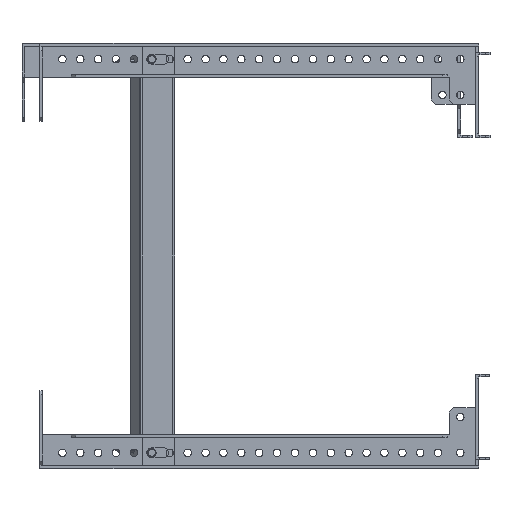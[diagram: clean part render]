
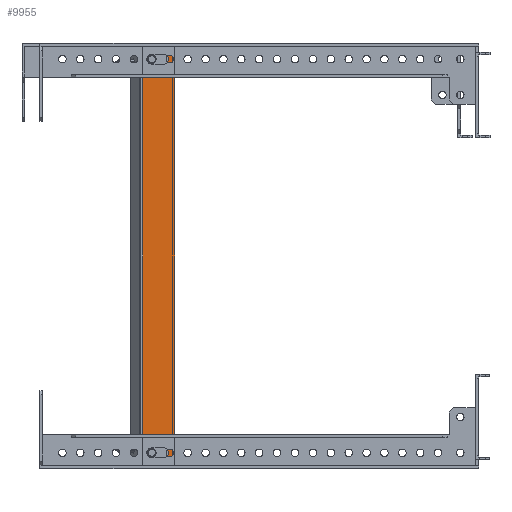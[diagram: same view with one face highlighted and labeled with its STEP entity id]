
A CAD part, front view. The second image highlights one B-rep face of the part: STEP entity #9955.
In plain terms, the highlighted planar face has unit normal (0, -1, 0).
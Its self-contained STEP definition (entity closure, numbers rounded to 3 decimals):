
#282 = EDGE_CURVE ( 'NONE', #14757, #2936, #15032, .T. ) ;
#398 = DIRECTION ( 'NONE',  ( 0., 1., 0. ) ) ;
#809 = DIRECTION ( 'NONE',  ( -1., 0., 0. ) ) ;
#815 = EDGE_LOOP ( 'NONE', ( #23691, #4379, #17553, #12034, #9433 ) ) ;
#844 = ORIENTED_EDGE ( 'NONE', *, *, #4892, .T. ) ;
#1882 = FACE_BOUND ( 'NONE', #7954, .T. ) ;
#1933 = VERTEX_POINT ( 'NONE', #16394 ) ;
#2351 = CARTESIAN_POINT ( 'NONE',  ( 1128.304, -254., -100.859 ) ) ;
#2728 = CARTESIAN_POINT ( 'NONE',  ( 1112.302, -254., -84. ) ) ;
#2936 = VERTEX_POINT ( 'NONE', #5985 ) ;
#2965 = EDGE_CURVE ( 'NONE', #2936, #4240, #19603, .T. ) ;
#3001 = CARTESIAN_POINT ( 'NONE',  ( 1108.802, -254., -87.5 ) ) ;
#3040 = AXIS2_PLACEMENT_3D ( 'NONE', #12081, #16424, #16161 ) ;
#3502 = CARTESIAN_POINT ( 'NONE',  ( 1112.302, -254., 184. ) ) ;
#3921 = CIRCLE ( 'NONE', #24994, 3.5 ) ;
#4084 = EDGE_CURVE ( 'NONE', #8769, #22178, #13556, .T. ) ;
#4099 = DIRECTION ( 'NONE',  ( 0., -1., 0. ) ) ;
#4240 = VERTEX_POINT ( 'NONE', #21056 ) ;
#4331 = EDGE_CURVE ( 'NONE', #6096, #1933, #15679, .T. ) ;
#4379 = ORIENTED_EDGE ( 'NONE', *, *, #5332, .T. ) ;
#4496 = EDGE_CURVE ( 'NONE', #15982, #11097, #6842, .T. ) ;
#4677 = CARTESIAN_POINT ( 'NONE',  ( 1112.302, -254., 187.5 ) ) ;
#4754 = AXIS2_PLACEMENT_3D ( 'NONE', #19602, #4099, #14128 ) ;
#4892 = EDGE_CURVE ( 'NONE', #14757, #10511, #12235, .T. ) ;
#4992 = VERTEX_POINT ( 'NONE', #3001 ) ;
#5332 = EDGE_CURVE ( 'NONE', #11097, #7019, #26108, .T. ) ;
#5436 = DIRECTION ( 'NONE',  ( 1., 0., 0. ) ) ;
#5706 = DIRECTION ( 'NONE',  ( 0., 1., 0. ) ) ;
#5985 = CARTESIAN_POINT ( 'NONE',  ( 1105.802, -254., -97.5 ) ) ;
#6096 = VERTEX_POINT ( 'NONE', #15609 ) ;
#6170 = LINE ( 'NONE', #12113, #9849 ) ;
#6447 = CARTESIAN_POINT ( 'NONE',  ( 1120.302, -254., -91. ) ) ;
#6663 = LINE ( 'NONE', #2728, #25129 ) ;
#6680 = VECTOR ( 'NONE', #7851, 1000. ) ;
#6810 = ORIENTED_EDGE ( 'NONE', *, *, #282, .F. ) ;
#6842 = CIRCLE ( 'NONE', #16522, 3.5 ) ;
#7019 = VERTEX_POINT ( 'NONE', #23886 ) ;
#7175 = VECTOR ( 'NONE', #809, 1000. ) ;
#7216 = EDGE_CURVE ( 'NONE', #4240, #10511, #6170, .T. ) ;
#7686 = PLANE ( 'NONE',  #8129 ) ;
#7844 = EDGE_CURVE ( 'NONE', #7019, #6096, #13746, .T. ) ;
#7851 = DIRECTION ( 'NONE',  ( 0., 0., 1. ) ) ;
#7954 = EDGE_LOOP ( 'NONE', ( #8527, #24599, #11323, #9936, #12585 ) ) ;
#8129 = AXIS2_PLACEMENT_3D ( 'NONE', #19447, #5706, #5436 ) ;
#8527 = ORIENTED_EDGE ( 'NONE', *, *, #11559, .F. ) ;
#8756 = VERTEX_POINT ( 'NONE', #12790 ) ;
#8769 = VERTEX_POINT ( 'NONE', #6447 ) ;
#8804 = CARTESIAN_POINT ( 'NONE',  ( 1112.302, -254., -91. ) ) ;
#9055 = DIRECTION ( 'NONE',  ( 0., -1., 0. ) ) ;
#9247 = AXIS2_PLACEMENT_3D ( 'NONE', #4677, #12735, #20798 ) ;
#9300 = DIRECTION ( 'NONE',  ( 0., 1., 0. ) ) ;
#9433 = ORIENTED_EDGE ( 'NONE', *, *, #23858, .T. ) ;
#9849 = VECTOR ( 'NONE', #24517, 1000. ) ;
#9936 = ORIENTED_EDGE ( 'NONE', *, *, #21147, .F. ) ;
#9955 = ADVANCED_FACE ( 'NONE', ( #19829, #25771, #1882 ), #7686, .F. ) ;
#10511 = VERTEX_POINT ( 'NONE', #18973 ) ;
#10696 = CARTESIAN_POINT ( 'NONE',  ( 1128.304, -254., -97.5 ) ) ;
#10754 = CARTESIAN_POINT ( 'NONE',  ( 1112.302, -254., 184. ) ) ;
#11097 = VERTEX_POINT ( 'NONE', #19337 ) ;
#11323 = ORIENTED_EDGE ( 'NONE', *, *, #12053, .F. ) ;
#11559 = EDGE_CURVE ( 'NONE', #18780, #8769, #24268, .T. ) ;
#11937 = ORIENTED_EDGE ( 'NONE', *, *, #2965, .F. ) ;
#12034 = ORIENTED_EDGE ( 'NONE', *, *, #4331, .T. ) ;
#12053 = EDGE_CURVE ( 'NONE', #8756, #4992, #3921, .T. ) ;
#12081 = CARTESIAN_POINT ( 'NONE',  ( 1120.302, -254., -87.5 ) ) ;
#12113 = CARTESIAN_POINT ( 'NONE',  ( 1105.802, -254., 197.5 ) ) ;
#12235 = LINE ( 'NONE', #2351, #22054 ) ;
#12369 = DIRECTION ( 'NONE',  ( 0., 0., 1. ) ) ;
#12432 = VECTOR ( 'NONE', #15936, 1000. ) ;
#12475 = CARTESIAN_POINT ( 'NONE',  ( 1112.302, -254., -87.5 ) ) ;
#12585 = ORIENTED_EDGE ( 'NONE', *, *, #4084, .F. ) ;
#12735 = DIRECTION ( 'NONE',  ( 0., 1., 0. ) ) ;
#12790 = CARTESIAN_POINT ( 'NONE',  ( 1112.302, -254., -84. ) ) ;
#13556 = CIRCLE ( 'NONE', #3040, 3.5 ) ;
#13746 = LINE ( 'NONE', #17843, #19346 ) ;
#13865 = DIRECTION ( 'NONE',  ( 1., 0., 0. ) ) ;
#14033 = CARTESIAN_POINT ( 'NONE',  ( 1105.802, -254., -97.5 ) ) ;
#14128 = DIRECTION ( 'NONE',  ( -1., 0., 0. ) ) ;
#14757 = VERTEX_POINT ( 'NONE', #10696 ) ;
#15032 = LINE ( 'NONE', #18885, #7175 ) ;
#15268 = AXIS2_PLACEMENT_3D ( 'NONE', #23681, #9300, #17739 ) ;
#15609 = CARTESIAN_POINT ( 'NONE',  ( 1120.302, -254., 191. ) ) ;
#15679 = CIRCLE ( 'NONE', #15268, 3.5 ) ;
#15936 = DIRECTION ( 'NONE',  ( 1., 0., 0. ) ) ;
#15982 = VERTEX_POINT ( 'NONE', #3502 ) ;
#16161 = DIRECTION ( 'NONE',  ( -1., 0., 0. ) ) ;
#16394 = CARTESIAN_POINT ( 'NONE',  ( 1120.302, -254., 184. ) ) ;
#16424 = DIRECTION ( 'NONE',  ( 0., -1., 0. ) ) ;
#16522 = AXIS2_PLACEMENT_3D ( 'NONE', #24956, #398, #24820 ) ;
#16539 = LINE ( 'NONE', #10754, #18306 ) ;
#16820 = CARTESIAN_POINT ( 'NONE',  ( 1120.302, -254., -84. ) ) ;
#17553 = ORIENTED_EDGE ( 'NONE', *, *, #7844, .T. ) ;
#17739 = DIRECTION ( 'NONE',  ( -1., 0., 0. ) ) ;
#17843 = CARTESIAN_POINT ( 'NONE',  ( 1112.302, -254., 191. ) ) ;
#18306 = VECTOR ( 'NONE', #23030, 1000. ) ;
#18663 = CIRCLE ( 'NONE', #4754, 3.5 ) ;
#18780 = VERTEX_POINT ( 'NONE', #8804 ) ;
#18885 = CARTESIAN_POINT ( 'NONE',  ( 1150.146, -254., -97.5 ) ) ;
#18973 = CARTESIAN_POINT ( 'NONE',  ( 1128.304, -254., 197.5 ) ) ;
#19337 = CARTESIAN_POINT ( 'NONE',  ( 1108.802, -254., 187.5 ) ) ;
#19346 = VECTOR ( 'NONE', #13865, 1000. ) ;
#19447 = CARTESIAN_POINT ( 'NONE',  ( 1150.77, -254., 50. ) ) ;
#19602 = CARTESIAN_POINT ( 'NONE',  ( 1112.302, -254., -87.5 ) ) ;
#19603 = LINE ( 'NONE', #14033, #6680 ) ;
#19803 = EDGE_LOOP ( 'NONE', ( #21719, #11937, #6810, #844 ) ) ;
#19829 = FACE_OUTER_BOUND ( 'NONE', #19803, .T. ) ;
#20798 = DIRECTION ( 'NONE',  ( -1., 0., 0. ) ) ;
#21056 = CARTESIAN_POINT ( 'NONE',  ( 1105.802, -254., 197.5 ) ) ;
#21059 = DIRECTION ( 'NONE',  ( -1., 0., 0. ) ) ;
#21147 = EDGE_CURVE ( 'NONE', #22178, #8756, #6663, .T. ) ;
#21719 = ORIENTED_EDGE ( 'NONE', *, *, #7216, .F. ) ;
#22054 = VECTOR ( 'NONE', #12369, 1000. ) ;
#22178 = VERTEX_POINT ( 'NONE', #16820 ) ;
#23030 = DIRECTION ( 'NONE',  ( -1., 0., 0. ) ) ;
#23034 = EDGE_CURVE ( 'NONE', #4992, #18780, #18663, .T. ) ;
#23681 = CARTESIAN_POINT ( 'NONE',  ( 1120.302, -254., 187.5 ) ) ;
#23691 = ORIENTED_EDGE ( 'NONE', *, *, #4496, .T. ) ;
#23858 = EDGE_CURVE ( 'NONE', #1933, #15982, #16539, .T. ) ;
#23886 = CARTESIAN_POINT ( 'NONE',  ( 1112.302, -254., 191. ) ) ;
#24268 = LINE ( 'NONE', #25993, #12432 ) ;
#24492 = DIRECTION ( 'NONE',  ( -1., 0., 0. ) ) ;
#24517 = DIRECTION ( 'NONE',  ( 1., 0., 0. ) ) ;
#24599 = ORIENTED_EDGE ( 'NONE', *, *, #23034, .F. ) ;
#24820 = DIRECTION ( 'NONE',  ( -1., 0., 0. ) ) ;
#24956 = CARTESIAN_POINT ( 'NONE',  ( 1112.302, -254., 187.5 ) ) ;
#24994 = AXIS2_PLACEMENT_3D ( 'NONE', #12475, #9055, #21059 ) ;
#25129 = VECTOR ( 'NONE', #24492, 1000. ) ;
#25771 = FACE_BOUND ( 'NONE', #815, .T. ) ;
#25993 = CARTESIAN_POINT ( 'NONE',  ( 1112.302, -254., -91. ) ) ;
#26108 = CIRCLE ( 'NONE', #9247, 3.5 ) ;
